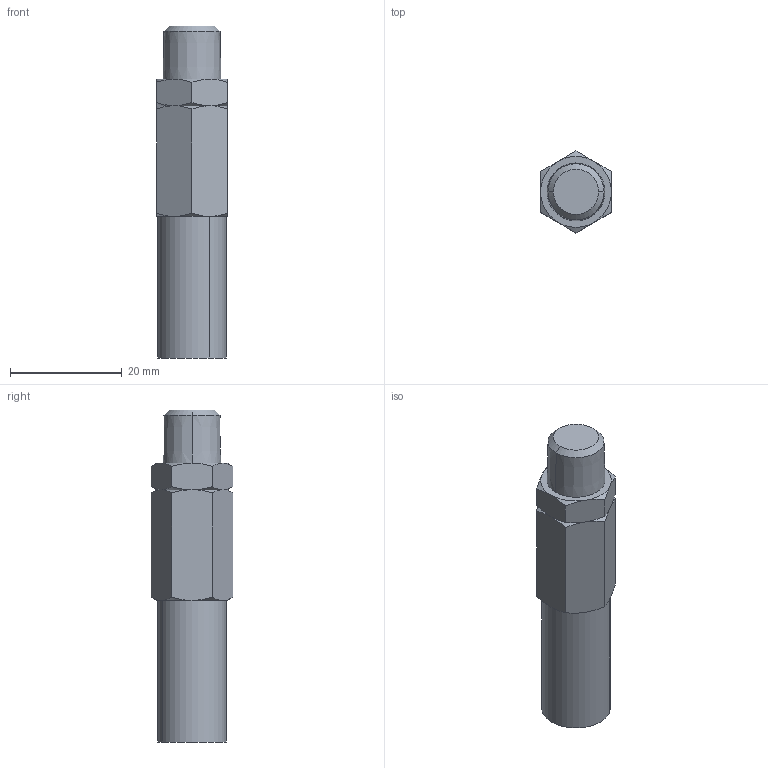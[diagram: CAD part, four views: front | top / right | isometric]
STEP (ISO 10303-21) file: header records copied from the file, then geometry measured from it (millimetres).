
FILE_DESCRIPTION((''),'2;1');
FILE_NAME('563231-EN-L_PRT','2019-12-31T21:53:37',('qusrh3'),(''),'CREO PARAMETRIC BY PTC INC, 2019030','CREO PARAMETRIC BY PTC INC, 2019030','');
FILE_SCHEMA(('CONFIG_CONTROL_DESIGN'));
Length unit declared in the file: inch
Products named in the file (1): 563231-EN-L_PRT
Bounding box: 12.7 x 14.66 x 59.54 mm (x, y, z)
Surface area: 2823.5 mm2 (no closed solid volume)
Topology: 0 solids, 4 shells, 46 faces, 100 edges, 58 vertices
Faces by surface type: cone 28, plane 16, cylinder 2
Entity records: 1455 total; most frequent: CARTESIAN_POINT 504, ORIENTED_EDGE 184, DIRECTION 178, EDGE_CURVE 100, AXIS2_PLACEMENT_3D 80, VERTEX_POINT 58, B_SPLINE_CURVE_WITH_KNOTS 48, EDGE_LOOP 46
